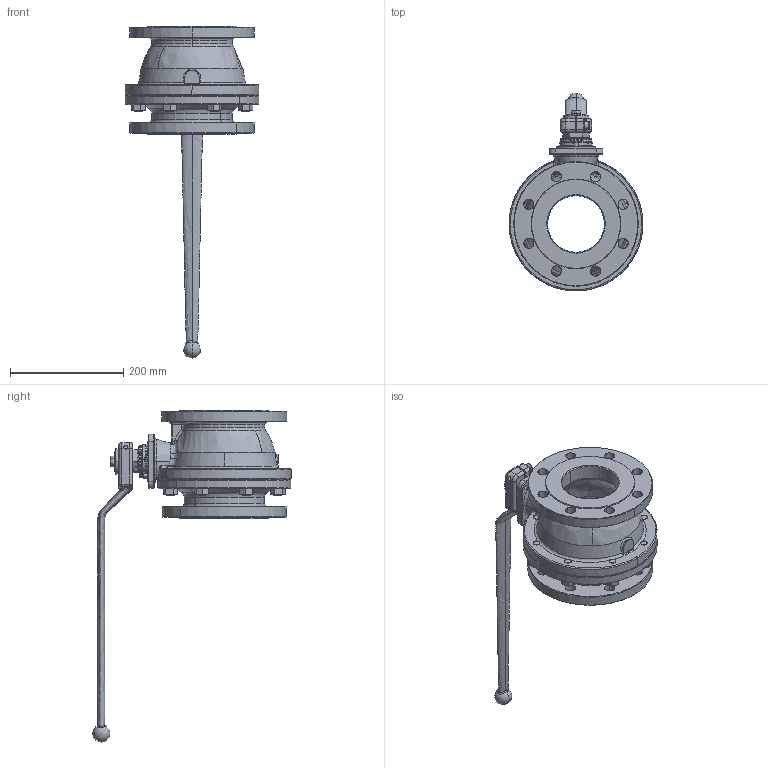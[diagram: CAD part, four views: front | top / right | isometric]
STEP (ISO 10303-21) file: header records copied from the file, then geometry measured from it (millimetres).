
FILE_DESCRIPTION (( 'STEP AP214' ), '1' );
FILE_NAME ('FIG 516 - DN100 con maneta.STEP', '2016-10-03T17:44:13', ( '' ), ( '' ), 'SwSTEP 2.0', 'SolidWorks 2016', '' );
FILE_SCHEMA (( 'AUTOMOTIVE_DESIGN' ));
Length unit declared in the file: millimetre
Products named in the file (19): DIN 2093 - B56; P100G (38x28x6,5)_Comprimida; JT100FV (38x28x2); DIN 6325 - Ø8x20; 5181_10-1; S100A1; DIN 912 M8 x 25 --- 25C_DIN 912 M8 x 25 --- 25C; 0516100C; 5180_17; DIN 933 - M10 x 16_DIN 933 - M10 x 16; M100CHST; 00810930; 200100_41; 0516100L; 5281_46; DIN 934 - M14; FIG 516 - DN100 con maneta; EPI100Q; 00810710
Assembly tree (36 placements, depth 2):
  FIG 516 - DN100 con maneta
    0516100C
    0516100L
    DIN 934 - M14  x8
    EPI100Q
    M100CHST
    5180_17
    DIN 933 - M10 x 16_DIN 933 - M10 x 16
    S100A1  x8
    DIN 912 M8 x 25 --- 25C_DIN 912 M8 x 25 --- 25C
    P100G (38x28x6,5)_Comprimida  x3
    5181_10-1
    JT100FV (38x28x2)
    00810930
    200100_41
    DIN 2093 - B56  x2
    5281_46
    00810710
    DIN 6325 - Ø8x20  x2
Bounding box: 236 x 349.7 x 585.5 mm (x, y, z)
Volume: 3219700.3 mm3; surface area: 572496.1 mm2
Topology: 36 solids, 36 shells, 1035 faces, 2484 edges, 1509 vertices
Faces by surface type: cylinder 323, cone 262, plane 254, bspline 156, torus 28, sphere 12
Entity records: 48851 total; most frequent: CARTESIAN_POINT 30832, ORIENTED_EDGE 3726, DIRECTION 3261, EDGE_CURVE 1863, AXIS2_PLACEMENT_3D 1341, VERTEX_POINT 1162, EDGE_LOOP 875, FACE_OUTER_BOUND 755
